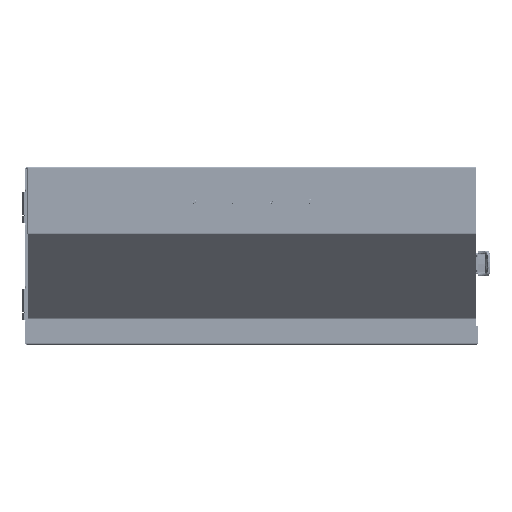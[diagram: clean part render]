
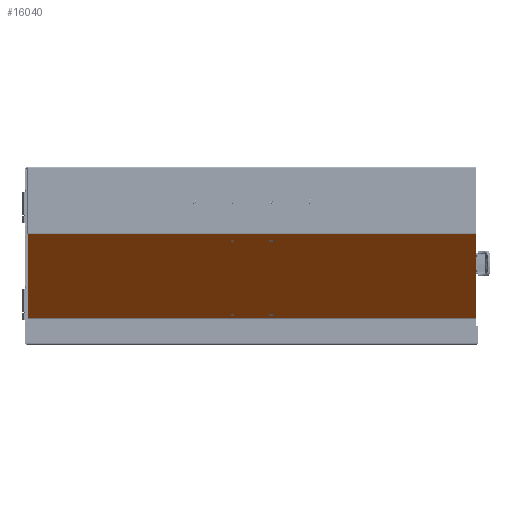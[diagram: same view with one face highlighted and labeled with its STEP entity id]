
A CAD part, front view. The second image highlights one B-rep face of the part: STEP entity #16040.
In plain terms, the highlighted planar face has unit normal (0, -0.707, -0.707).
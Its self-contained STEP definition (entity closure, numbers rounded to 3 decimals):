
#2896 = VECTOR ( 'NONE', #68051, 1000. ) ;
#4730 = CARTESIAN_POINT ( 'NONE',  ( -288.8, 0.703, 27.447 ) ) ;
#5069 = DIRECTION ( 'NONE',  ( -1., 0., 0. ) ) ;
#5094 = CARTESIAN_POINT ( 'NONE',  ( -25., 104.656, -76.506 ) ) ;
#7075 = CARTESIAN_POINT ( 'NONE',  ( 22.5, 104.656, -76.506 ) ) ;
#7491 = DIRECTION ( 'NONE',  ( -1., 0., 0. ) ) ;
#8532 = CARTESIAN_POINT ( 'NONE',  ( -25., 9.338, 18.812 ) ) ;
#9108 = EDGE_CURVE ( 'NONE', #94936, #87505, #31908, .T. ) ;
#9396 = EDGE_CURVE ( 'NONE', #31069, #17579, #25236, .T. ) ;
#9582 = EDGE_LOOP ( 'NONE', ( #108040, #72589, #82300, #127043 ) ) ;
#11701 = CARTESIAN_POINT ( 'NONE',  ( -22.5, 9.338, 18.812 ) ) ;
#12437 = VERTEX_POINT ( 'NONE', #92780 ) ;
#12475 = DIRECTION ( 'NONE',  ( -1., 0., 0. ) ) ;
#12894 = AXIS2_PLACEMENT_3D ( 'NONE', #22835, #97090, #12475 ) ;
#13350 = EDGE_CURVE ( 'NONE', #12437, #94936, #101407, .T. ) ;
#14718 = VERTEX_POINT ( 'NONE', #86684 ) ;
#15148 = CARTESIAN_POINT ( 'NONE',  ( 27.5, 9.338, 18.812 ) ) ;
#16040 = ADVANCED_FACE ( 'NONE', ( #52172, #39838, #94142, #125121, #123099 ), #113428, .T. ) ;
#16879 = VERTEX_POINT ( 'NONE', #78618 ) ;
#17120 = AXIS2_PLACEMENT_3D ( 'NONE', #113447, #50849, #103119 ) ;
#17579 = VERTEX_POINT ( 'NONE', #68898 ) ;
#18223 = ORIENTED_EDGE ( 'NONE', *, *, #100900, .T. ) ;
#18354 = EDGE_CURVE ( 'NONE', #17579, #31069, #77002, .T. ) ;
#19552 = DIRECTION ( 'NONE',  ( 0., 0.707, 0.707 ) ) ;
#19964 = VERTEX_POINT ( 'NONE', #68109 ) ;
#22182 = DIRECTION ( 'NONE',  ( 0., 0.707, 0.707 ) ) ;
#22506 = EDGE_LOOP ( 'NONE', ( #48210, #69119 ) ) ;
#22835 = CARTESIAN_POINT ( 'NONE',  ( 25., 104.656, -76.506 ) ) ;
#23803 = CIRCLE ( 'NONE', #17120, 2.5 ) ;
#25236 = CIRCLE ( 'NONE', #42791, 2.5 ) ;
#28956 = ORIENTED_EDGE ( 'NONE', *, *, #69167, .T. ) ;
#29075 = AXIS2_PLACEMENT_3D ( 'NONE', #87673, #55993, #5069 ) ;
#29417 = VECTOR ( 'NONE', #121416, 1000. ) ;
#29630 = VECTOR ( 'NONE', #115820, 1000. ) ;
#31069 = VERTEX_POINT ( 'NONE', #120237 ) ;
#31908 = LINE ( 'NONE', #73852, #29630 ) ;
#35274 = AXIS2_PLACEMENT_3D ( 'NONE', #5094, #47103, #35420 ) ;
#35420 = DIRECTION ( 'NONE',  ( 1., 0., 0. ) ) ;
#38622 = DIRECTION ( 'NONE',  ( 1., 0., 0. ) ) ;
#38901 = VECTOR ( 'NONE', #127474, 1000. ) ;
#39838 = FACE_BOUND ( 'NONE', #79179, .T. ) ;
#41190 = CARTESIAN_POINT ( 'NONE',  ( -288.8, 0., 28.15 ) ) ;
#41460 = AXIS2_PLACEMENT_3D ( 'NONE', #115749, #22182, #117110 ) ;
#41502 = CARTESIAN_POINT ( 'NONE',  ( 288.8, 0.703, 27.447 ) ) ;
#42791 = AXIS2_PLACEMENT_3D ( 'NONE', #134290, #92988, #134967 ) ;
#44169 = ORIENTED_EDGE ( 'NONE', *, *, #105207, .T. ) ;
#47103 = DIRECTION ( 'NONE',  ( 0., 0.707, 0.707 ) ) ;
#47751 = EDGE_CURVE ( 'NONE', #87505, #118443, #135071, .T. ) ;
#48210 = ORIENTED_EDGE ( 'NONE', *, *, #18354, .T. ) ;
#50849 = DIRECTION ( 'NONE',  ( 0., 0.707, 0.707 ) ) ;
#52172 = FACE_BOUND ( 'NONE', #91752, .T. ) ;
#55449 = EDGE_CURVE ( 'NONE', #106842, #19964, #23803, .T. ) ;
#55993 = DIRECTION ( 'NONE',  ( 0., 0.707, 0.707 ) ) ;
#59737 = LINE ( 'NONE', #4730, #2896 ) ;
#59764 = ORIENTED_EDGE ( 'NONE', *, *, #72656, .T. ) ;
#63097 = EDGE_LOOP ( 'NONE', ( #133796, #80823 ) ) ;
#68051 = DIRECTION ( 'NONE',  ( 0., 0.707, -0.707 ) ) ;
#68109 = CARTESIAN_POINT ( 'NONE',  ( -27.5, 9.338, 18.812 ) ) ;
#68898 = CARTESIAN_POINT ( 'NONE',  ( -22.5, 104.656, -76.506 ) ) ;
#69119 = ORIENTED_EDGE ( 'NONE', *, *, #9396, .T. ) ;
#69167 = EDGE_CURVE ( 'NONE', #84166, #14718, #100758, .T. ) ;
#70243 = CARTESIAN_POINT ( 'NONE',  ( 25., 104.656, -76.506 ) ) ;
#71189 = VERTEX_POINT ( 'NONE', #7075 ) ;
#72589 = ORIENTED_EDGE ( 'NONE', *, *, #9108, .T. ) ;
#72656 = EDGE_CURVE ( 'NONE', #16879, #71189, #134153, .T. ) ;
#73852 = CARTESIAN_POINT ( 'NONE',  ( 288.8, 108.899, -80.749 ) ) ;
#74823 = AXIS2_PLACEMENT_3D ( 'NONE', #70243, #99857, #38622 ) ;
#76276 = EDGE_CURVE ( 'NONE', #118443, #12437, #59737, .T. ) ;
#77002 = CIRCLE ( 'NONE', #35274, 2.5 ) ;
#77060 = CARTESIAN_POINT ( 'NONE',  ( 288.8, 108.899, -80.749 ) ) ;
#78618 = CARTESIAN_POINT ( 'NONE',  ( 27.5, 104.656, -76.506 ) ) ;
#79179 = EDGE_LOOP ( 'NONE', ( #59764, #44169 ) ) ;
#80626 = CARTESIAN_POINT ( 'NONE',  ( 288.8, 0.703, 27.447 ) ) ;
#80823 = ORIENTED_EDGE ( 'NONE', *, *, #109001, .T. ) ;
#82151 = DIRECTION ( 'NONE',  ( -1., 0., 0. ) ) ;
#82300 = ORIENTED_EDGE ( 'NONE', *, *, #47751, .T. ) ;
#84166 = VERTEX_POINT ( 'NONE', #15148 ) ;
#86220 = CIRCLE ( 'NONE', #29075, 2.5 ) ;
#86263 = CIRCLE ( 'NONE', #112571, 2.5 ) ;
#86684 = CARTESIAN_POINT ( 'NONE',  ( 22.5, 9.338, 18.812 ) ) ;
#87505 = VERTEX_POINT ( 'NONE', #80626 ) ;
#87673 = CARTESIAN_POINT ( 'NONE',  ( 25., 9.338, 18.812 ) ) ;
#88734 = CARTESIAN_POINT ( 'NONE',  ( -288.8, 0.703, 27.447 ) ) ;
#91752 = EDGE_LOOP ( 'NONE', ( #28956, #18223 ) ) ;
#92780 = CARTESIAN_POINT ( 'NONE',  ( -288.8, 108.899, -80.749 ) ) ;
#92988 = DIRECTION ( 'NONE',  ( 0., 0.707, 0.707 ) ) ;
#94142 = FACE_BOUND ( 'NONE', #63097, .T. ) ;
#94936 = VERTEX_POINT ( 'NONE', #77060 ) ;
#97090 = DIRECTION ( 'NONE',  ( 0., 0.707, 0.707 ) ) ;
#99857 = DIRECTION ( 'NONE',  ( 0., 0.707, 0.707 ) ) ;
#100758 = CIRCLE ( 'NONE', #41460, 2.5 ) ;
#100900 = EDGE_CURVE ( 'NONE', #14718, #84166, #86220, .T. ) ;
#101407 = LINE ( 'NONE', #122771, #29417 ) ;
#103119 = DIRECTION ( 'NONE',  ( 1., 0., 0. ) ) ;
#105207 = EDGE_CURVE ( 'NONE', #71189, #16879, #131567, .T. ) ;
#106842 = VERTEX_POINT ( 'NONE', #11701 ) ;
#108040 = ORIENTED_EDGE ( 'NONE', *, *, #13350, .T. ) ;
#109001 = EDGE_CURVE ( 'NONE', #19964, #106842, #86263, .T. ) ;
#112571 = AXIS2_PLACEMENT_3D ( 'NONE', #8532, #19552, #82151 ) ;
#113428 = PLANE ( 'NONE',  #134516 ) ;
#113447 = CARTESIAN_POINT ( 'NONE',  ( -25., 9.338, 18.812 ) ) ;
#115749 = CARTESIAN_POINT ( 'NONE',  ( 25., 9.338, 18.812 ) ) ;
#115820 = DIRECTION ( 'NONE',  ( 0., -0.707, 0.707 ) ) ;
#117110 = DIRECTION ( 'NONE',  ( 1., 0., 0. ) ) ;
#118443 = VERTEX_POINT ( 'NONE', #88734 ) ;
#120237 = CARTESIAN_POINT ( 'NONE',  ( -27.5, 104.656, -76.506 ) ) ;
#121416 = DIRECTION ( 'NONE',  ( 1., 0., 0. ) ) ;
#122771 = CARTESIAN_POINT ( 'NONE',  ( -288.8, 108.899, -80.749 ) ) ;
#123099 = FACE_OUTER_BOUND ( 'NONE', #9582, .T. ) ;
#125121 = FACE_BOUND ( 'NONE', #22506, .T. ) ;
#125789 = DIRECTION ( 'NONE',  ( 0., -0.707, -0.707 ) ) ;
#127043 = ORIENTED_EDGE ( 'NONE', *, *, #76276, .T. ) ;
#127474 = DIRECTION ( 'NONE',  ( -1., 0., 0. ) ) ;
#131567 = CIRCLE ( 'NONE', #12894, 2.5 ) ;
#133796 = ORIENTED_EDGE ( 'NONE', *, *, #55449, .T. ) ;
#134153 = CIRCLE ( 'NONE', #74823, 2.5 ) ;
#134290 = CARTESIAN_POINT ( 'NONE',  ( -25., 104.656, -76.506 ) ) ;
#134516 = AXIS2_PLACEMENT_3D ( 'NONE', #41190, #125789, #7491 ) ;
#134967 = DIRECTION ( 'NONE',  ( -1., 0., 0. ) ) ;
#135071 = LINE ( 'NONE', #41502, #38901 ) ;
